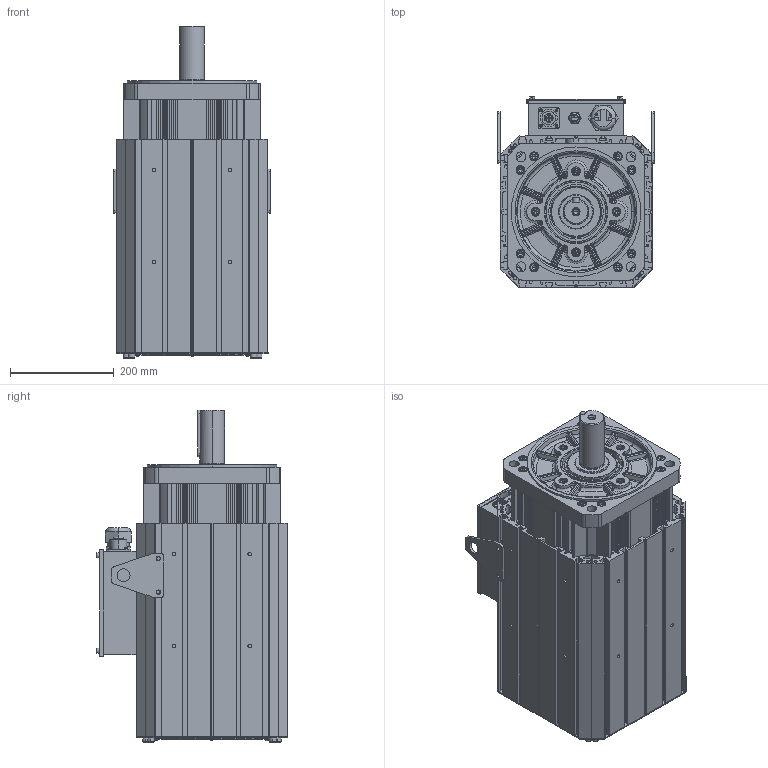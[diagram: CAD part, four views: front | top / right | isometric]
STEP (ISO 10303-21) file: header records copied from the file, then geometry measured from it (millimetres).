
FILE_DESCRIPTION (( 'STEP AP214' ), '1' );
FILE_NAME ('VM7-M26D-03015-D1FN.STEP', '2022-04-20T06:57:32', ( '' ), ( '' ), 'SwSTEP 2.0', 'SolidWorks 2014', '' );
FILE_SCHEMA (( 'AUTOMOTIVE_DESIGN' ));
Length unit declared in the file: millimetre
Products named in the file (3): 俋褲; VM7-M26D-03015-D1FN; 翋极
Assembly tree (2 placements, depth 2):
  VM7-M26D-03015-D1FN
    翋极
    俋褲
Bounding box: 302 x 368.5 x 640 mm (x, y, z)
Volume: 10758489.5 mm3; surface area: 3770045.1 mm2
Topology: 121 solids, 121 shells, 4414 faces, 11363 edges, 7203 vertices
Faces by surface type: plane 2589, cylinder 1089, cone 301, torus 275, bspline 138, sphere 22
Entity records: 197109 total; most frequent: CARTESIAN_POINT 39851, ORIENTED_EDGE 22370, DIRECTION 22116, EDGE_CURVE 11185, AXIS2_PLACEMENT_3D 7452, LINE 7212, VECTOR 7212, VERTEX_POINT 7169
